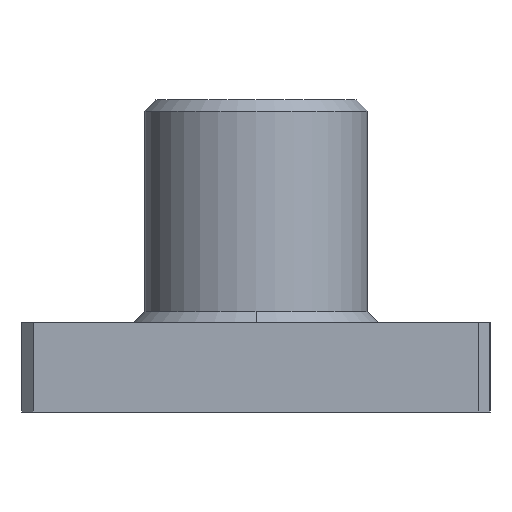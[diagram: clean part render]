
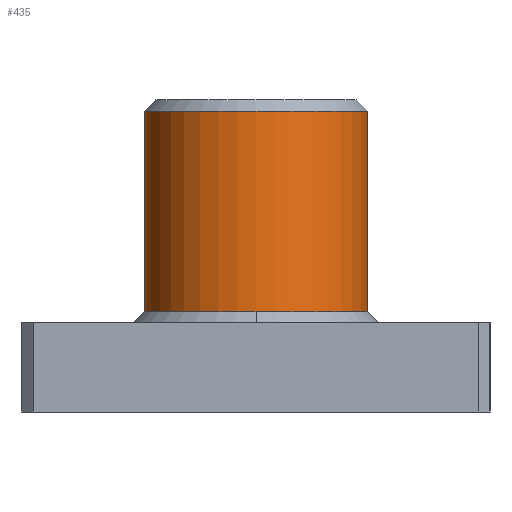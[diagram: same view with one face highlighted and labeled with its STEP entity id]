
A CAD part, left-side view. The second image highlights one B-rep face of the part: STEP entity #435.
In plain terms, the highlighted cylindrical face has radius 10 mm (diameter 20 mm), a partial arc.
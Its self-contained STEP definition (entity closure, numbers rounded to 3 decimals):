
#28 = ORIENTED_EDGE ( 'NONE', *, *, #922, .F. ) ;
#81 = VERTEX_POINT ( 'NONE', #975 ) ;
#141 = DIRECTION ( 'NONE',  ( -1., 0., 0. ) ) ;
#145 = DIRECTION ( 'NONE',  ( 0., 0., 1. ) ) ;
#162 = CIRCLE ( 'NONE', #213, 10. ) ;
#186 = AXIS2_PLACEMENT_3D ( 'NONE', #426, #756, #678 ) ;
#206 = VECTOR ( 'NONE', #968, 1000. ) ;
#208 = DIRECTION ( 'NONE',  ( -1., 0., 0. ) ) ;
#213 = AXIS2_PLACEMENT_3D ( 'NONE', #619, #145, #141 ) ;
#310 = ORIENTED_EDGE ( 'NONE', *, *, #598, .T. ) ;
#316 = EDGE_CURVE ( 'NONE', #1127, #379, #920, .T. ) ;
#379 = VERTEX_POINT ( 'NONE', #762 ) ;
#404 = LINE ( 'NONE', #957, #835 ) ;
#418 = VERTEX_POINT ( 'NONE', #837 ) ;
#426 = CARTESIAN_POINT ( 'NONE',  ( 0., 0., 27. ) ) ;
#435 = ADVANCED_FACE ( 'NONE', ( #536 ), #505, .T. ) ;
#476 = AXIS2_PLACEMENT_3D ( 'NONE', #946, #919, #910 ) ;
#505 = CYLINDRICAL_SURFACE ( 'NONE', #476, 10. ) ;
#536 = FACE_OUTER_BOUND ( 'NONE', #578, .T. ) ;
#561 = CARTESIAN_POINT ( 'NONE',  ( 0., -10., 27. ) ) ;
#573 = CARTESIAN_POINT ( 'NONE',  ( 0., -10., 27. ) ) ;
#578 = EDGE_LOOP ( 'NONE', ( #607, #28, #1033, #310, #1032 ) ) ;
#598 = EDGE_CURVE ( 'NONE', #418, #81, #162, .T. ) ;
#607 = ORIENTED_EDGE ( 'NONE', *, *, #316, .F. ) ;
#619 = CARTESIAN_POINT ( 'NONE',  ( 0., 0., 9. ) ) ;
#637 = DIRECTION ( 'NONE',  ( 0., 0., -1. ) ) ;
#678 = DIRECTION ( 'NONE',  ( -1., 0., 0. ) ) ;
#686 = CARTESIAN_POINT ( 'NONE',  ( 0., 10., 27. ) ) ;
#709 = EDGE_CURVE ( 'NONE', #81, #379, #795, .T. ) ;
#724 = CIRCLE ( 'NONE', #186, 10. ) ;
#756 = DIRECTION ( 'NONE',  ( 0., 0., 1. ) ) ;
#762 = CARTESIAN_POINT ( 'NONE',  ( 0., -10., 9. ) ) ;
#795 = CIRCLE ( 'NONE', #934, 10. ) ;
#835 = VECTOR ( 'NONE', #637, 1000. ) ;
#837 = CARTESIAN_POINT ( 'NONE',  ( 0., 10., 9. ) ) ;
#910 = DIRECTION ( 'NONE',  ( 0., 1., 0. ) ) ;
#919 = DIRECTION ( 'NONE',  ( 0., 0., -1. ) ) ;
#920 = LINE ( 'NONE', #573, #206 ) ;
#922 = EDGE_CURVE ( 'NONE', #972, #1127, #724, .T. ) ;
#934 = AXIS2_PLACEMENT_3D ( 'NONE', #1000, #1096, #208 ) ;
#946 = CARTESIAN_POINT ( 'NONE',  ( 0., 0., 27. ) ) ;
#957 = CARTESIAN_POINT ( 'NONE',  ( 0., 10., 27. ) ) ;
#968 = DIRECTION ( 'NONE',  ( 0., 0., -1. ) ) ;
#972 = VERTEX_POINT ( 'NONE', #686 ) ;
#975 = CARTESIAN_POINT ( 'NONE',  ( -10., 0., 9. ) ) ;
#1000 = CARTESIAN_POINT ( 'NONE',  ( 0., 0., 9. ) ) ;
#1032 = ORIENTED_EDGE ( 'NONE', *, *, #709, .T. ) ;
#1033 = ORIENTED_EDGE ( 'NONE', *, *, #1045, .T. ) ;
#1045 = EDGE_CURVE ( 'NONE', #972, #418, #404, .T. ) ;
#1096 = DIRECTION ( 'NONE',  ( 0., 0., 1. ) ) ;
#1127 = VERTEX_POINT ( 'NONE', #561 ) ;
